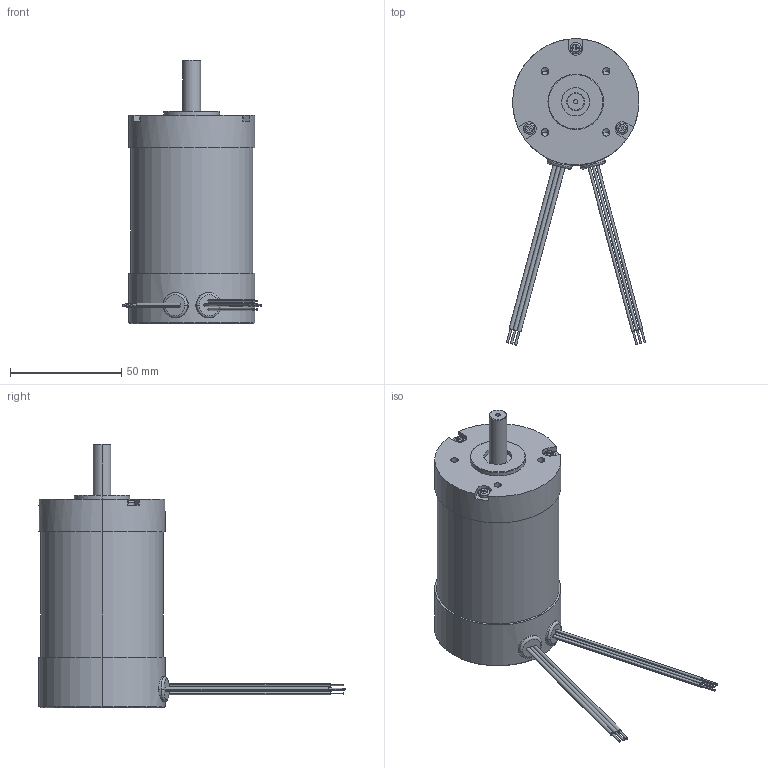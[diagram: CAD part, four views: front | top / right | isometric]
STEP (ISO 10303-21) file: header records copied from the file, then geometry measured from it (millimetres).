
FILE_DESCRIPTION (( 'STEP AP214' ), '1' );
FILE_NAME ('BLWR234S.STEP', '2013-07-24T21:47:38', ( '' ), ( '' ), 'SwSTEP 2.0', 'SolidWorks 2013', '' );
FILE_SCHEMA (( 'AUTOMOTIVE_DESIGN' ));
Length unit declared in the file: inch
Products named in the file (1): BLWR234S
Bounding box: 62.81 x 137.75 x 118.62 mm (x, y, z)
Volume: 230704.3 mm3; surface area: 26768.9 mm2
Topology: 1 solids, 1 shells, 277 faces, 677 edges, 429 vertices
Faces by surface type: plane 129, cylinder 106, cone 28, torus 14
Entity records: 12006 total; most frequent: CARTESIAN_POINT 1792, DIRECTION 1427, ORIENTED_EDGE 1326, EDGE_CURVE 663, AXIS2_PLACEMENT_3D 556, VERTEX_POINT 429, EDGE_LOOP 318, VECTOR 315
